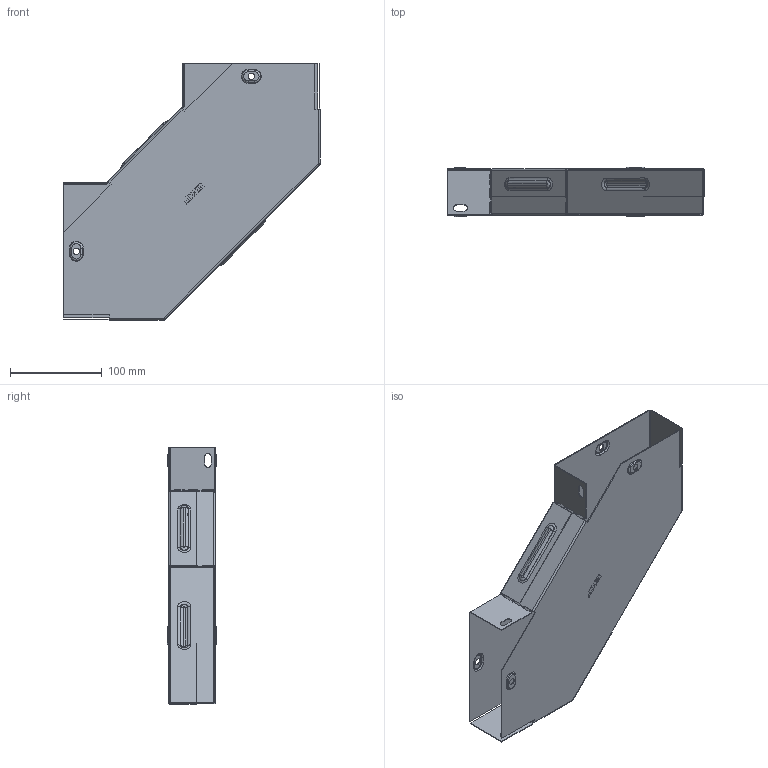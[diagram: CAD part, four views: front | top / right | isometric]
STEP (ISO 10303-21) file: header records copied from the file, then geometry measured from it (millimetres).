
FILE_DESCRIPTION (( 'STEP AP214' ), '1' );
FILE_NAME ('g9050150_捘.STEP', '2019-06-10T09:48:46', ( '砐錪賧瘔蠈錪 Windows' ), ( '' ), 'SwSTEP 2.0', 'SolidWorks 2018', '' );
FILE_SCHEMA (( 'AUTOMOTIVE_DESIGN' ));
Length unit declared in the file: millimetre
Products named in the file (1): g9050150_捘
Bounding box: 280.8 x 53.8 x 280.8 mm (x, y, z)
Volume: 113961.8 mm3; surface area: 287691.1 mm2
Topology: 2 solids, 2 shells, 505 faces, 1359 edges, 874 vertices
Faces by surface type: plane 288, cylinder 127, torus 64, bspline 26
Entity records: 17072 total; most frequent: CARTESIAN_POINT 4215, ORIENTED_EDGE 2718, DIRECTION 2589, EDGE_CURVE 1359, VECTOR 961, LINE 961, VERTEX_POINT 874, AXIS2_PLACEMENT_3D 814
